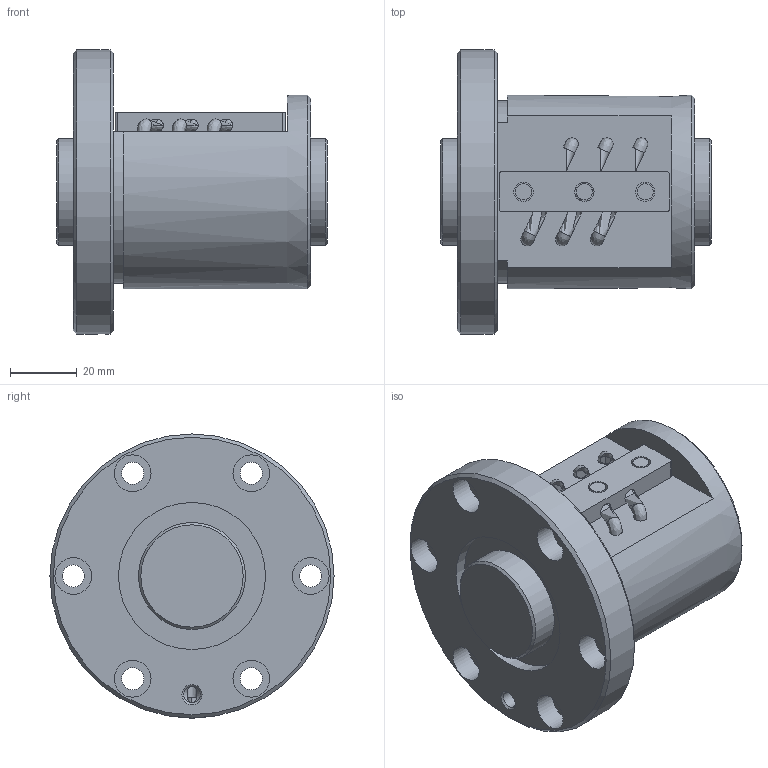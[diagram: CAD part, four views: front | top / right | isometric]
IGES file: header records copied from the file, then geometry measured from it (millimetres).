
Start section: Data from Parasolid IGES Translator 26.0.171, Copyright(c) 2006 Siemens PLM Software. All Rights Reserved.
Global section: file name: BNF3205V-7.5RRG1+81LC0_000_rev.igs; native system: By Siemens PLM Incorporated; preprocessor: XPlus GENERIC/IGES 26.0.171; author: Noname; organization: Noname; date: 20240806.073630; units: millimetre
Bounding box: 81 x 85 x 85 mm (x, y, z)
Surface area: 44579.3 mm2 (no closed solid volume)
Topology: 0 solids, 0 shells, 87 faces, 400 edges, 362 vertices
Faces by surface type: revolution 57, extrusion 30
